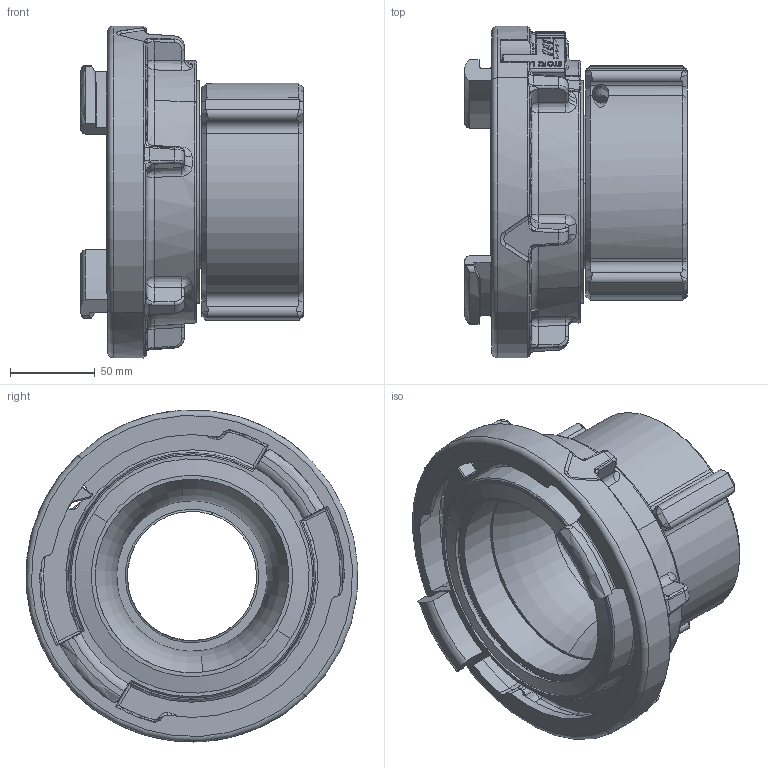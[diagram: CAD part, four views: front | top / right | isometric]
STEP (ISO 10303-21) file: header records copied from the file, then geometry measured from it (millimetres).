
FILE_DESCRIPTION (( 'STEP AP203' ), '1' );
FILE_NAME ('AA1ST-NL.step', '2014-05-13T18:30:57', ( 'user' ), ( '' ), 'SwSTEP 2.0', 'SolidWorks 2012', '' );
FILE_SCHEMA (( 'CONFIG_CONTROL_DESIGN' ));
Length unit declared in the file: inch
Products named in the file (1): AA1ST-NL
Bounding box: 131.14 x 195.67 x 196 mm (x, y, z)
Surface area: 198338.4 mm2 (no closed solid volume)
Topology: 0 solids, 10 shells, 1024 faces, 3399 edges, 2262 vertices
Faces by surface type: plane 317, bspline 313, cylinder 204, cone 93, torus 77, sphere 20
Entity records: 54751 total; most frequent: CARTESIAN_POINT 29273, ORIENTED_EDGE 5714, DIRECTION 4171, EDGE_CURVE 3390, VERTEX_POINT 2260, AXIS2_PLACEMENT_3D 1411, LINE 1349, VECTOR 1349
